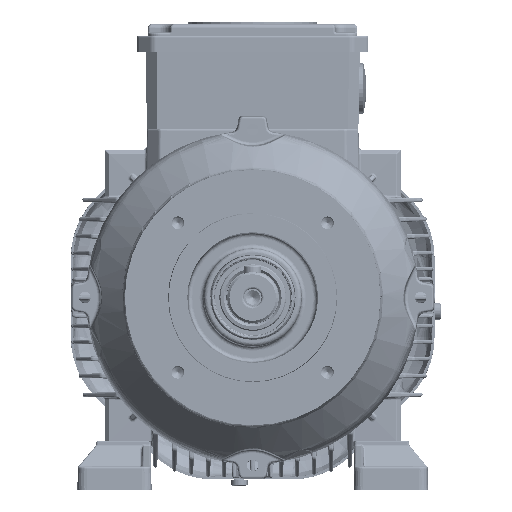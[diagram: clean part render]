
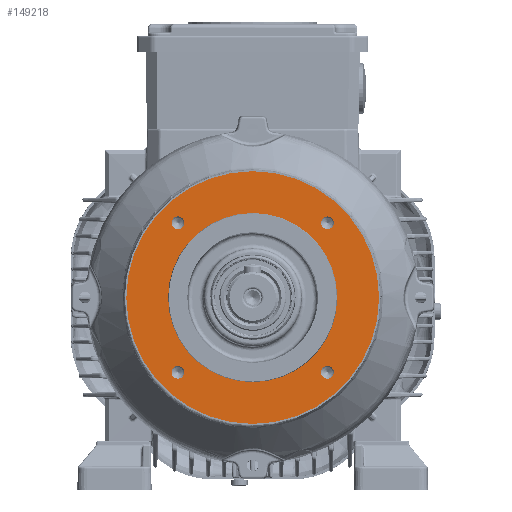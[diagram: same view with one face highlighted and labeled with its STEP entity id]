
A CAD part, left-side view. The second image highlights one B-rep face of the part: STEP entity #149218.
In plain terms, the highlighted planar face has unit normal (-1, 0, 0).
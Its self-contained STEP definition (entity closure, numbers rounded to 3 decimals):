
#46842=PLANE('',#192823);
#57502=EDGE_LOOP('',(#102375));
#57503=EDGE_LOOP('',(#102376));
#57504=EDGE_LOOP('',(#102377));
#57505=EDGE_LOOP('',(#102378));
#57506=EDGE_LOOP('',(#102379));
#57507=EDGE_LOOP('',(#102380));
#102375=ORIENTED_EDGE('',*,*,#132013,.T.);
#102376=ORIENTED_EDGE('',*,*,#132014,.T.);
#102377=ORIENTED_EDGE('',*,*,#132015,.T.);
#102378=ORIENTED_EDGE('',*,*,#132016,.T.);
#102379=ORIENTED_EDGE('',*,*,#132017,.T.);
#102380=ORIENTED_EDGE('',*,*,#132018,.F.);
#132013=EDGE_CURVE('',#165562,#165562,#175024,.T.);
#132014=EDGE_CURVE('',#165563,#165563,#175025,.T.);
#132015=EDGE_CURVE('',#165564,#165564,#175026,.T.);
#132016=EDGE_CURVE('',#165565,#165565,#175027,.T.);
#132017=EDGE_CURVE('',#165566,#165566,#175028,.T.);
#132018=EDGE_CURVE('',#165567,#165567,#175029,.T.);
#149218=ADVANCED_FACE('',(#152515,#152516,#152517,#152518,#152519,#152520),
#46842,.T.);
#152515=FACE_BOUND('',#57502,.T.);
#152516=FACE_BOUND('',#57503,.T.);
#152517=FACE_BOUND('',#57504,.T.);
#152518=FACE_BOUND('',#57505,.T.);
#152519=FACE_BOUND('',#57506,.T.);
#152520=FACE_BOUND('',#57507,.T.);
#165562=VERTEX_POINT('',#382482);
#165563=VERTEX_POINT('',#382484);
#165564=VERTEX_POINT('',#382486);
#165565=VERTEX_POINT('',#382488);
#165566=VERTEX_POINT('',#382490);
#165567=VERTEX_POINT('',#382492);
#175024=CIRCLE('',#192817,3.);
#175025=CIRCLE('',#192818,3.);
#175026=CIRCLE('',#192819,3.);
#175027=CIRCLE('',#192820,3.);
#175028=CIRCLE('',#192821,40.);
#175029=CIRCLE('',#192822,59.75);
#192817=AXIS2_PLACEMENT_3D('',#382481,#234161,#234162);
#192818=AXIS2_PLACEMENT_3D('',#382483,#234163,#234164);
#192819=AXIS2_PLACEMENT_3D('',#382485,#234165,#234166);
#192820=AXIS2_PLACEMENT_3D('',#382487,#234167,#234168);
#192821=AXIS2_PLACEMENT_3D('',#382489,#234169,#234170);
#192822=AXIS2_PLACEMENT_3D('',#382491,#234171,#234172);
#192823=AXIS2_PLACEMENT_3D('',#382493,#234173,#234174);
#234161=DIRECTION('',(1.,0.,0.));
#234162=DIRECTION('',(0.,0.,1.));
#234163=DIRECTION('',(1.,0.,0.));
#234164=DIRECTION('',(0.,0.,1.));
#234165=DIRECTION('',(1.,0.,0.));
#234166=DIRECTION('',(0.,0.,1.));
#234167=DIRECTION('',(1.,0.,0.));
#234168=DIRECTION('',(0.,0.,1.));
#234169=DIRECTION('',(1.,0.,0.));
#234170=DIRECTION('',(0.,0.,-1.));
#234171=DIRECTION('',(1.,0.,0.));
#234172=DIRECTION('',(0.,0.,-1.));
#234173=DIRECTION('',(-1.,0.,0.));
#234174=DIRECTION('',(0.,0.,1.));
#382481=CARTESIAN_POINT('',(-51.499,53.625,117.766));
#382482=CARTESIAN_POINT('',(-51.499,53.625,120.766));
#382483=CARTESIAN_POINT('',(-51.499,53.625,47.055));
#382484=CARTESIAN_POINT('',(-51.499,53.625,50.055));
#382485=CARTESIAN_POINT('',(-51.499,-17.085,47.055));
#382486=CARTESIAN_POINT('',(-51.499,-17.085,50.055));
#382487=CARTESIAN_POINT('',(-51.499,-17.086,117.766));
#382488=CARTESIAN_POINT('',(-51.499,-17.086,120.766));
#382489=CARTESIAN_POINT('',(-51.499,18.27,82.411));
#382490=CARTESIAN_POINT('',(-51.499,18.27,42.411));
#382491=CARTESIAN_POINT('',(-51.499,18.27,82.411));
#382492=CARTESIAN_POINT('',(-51.499,18.27,22.661));
#382493=CARTESIAN_POINT('',(-51.499,18.27,82.411));
